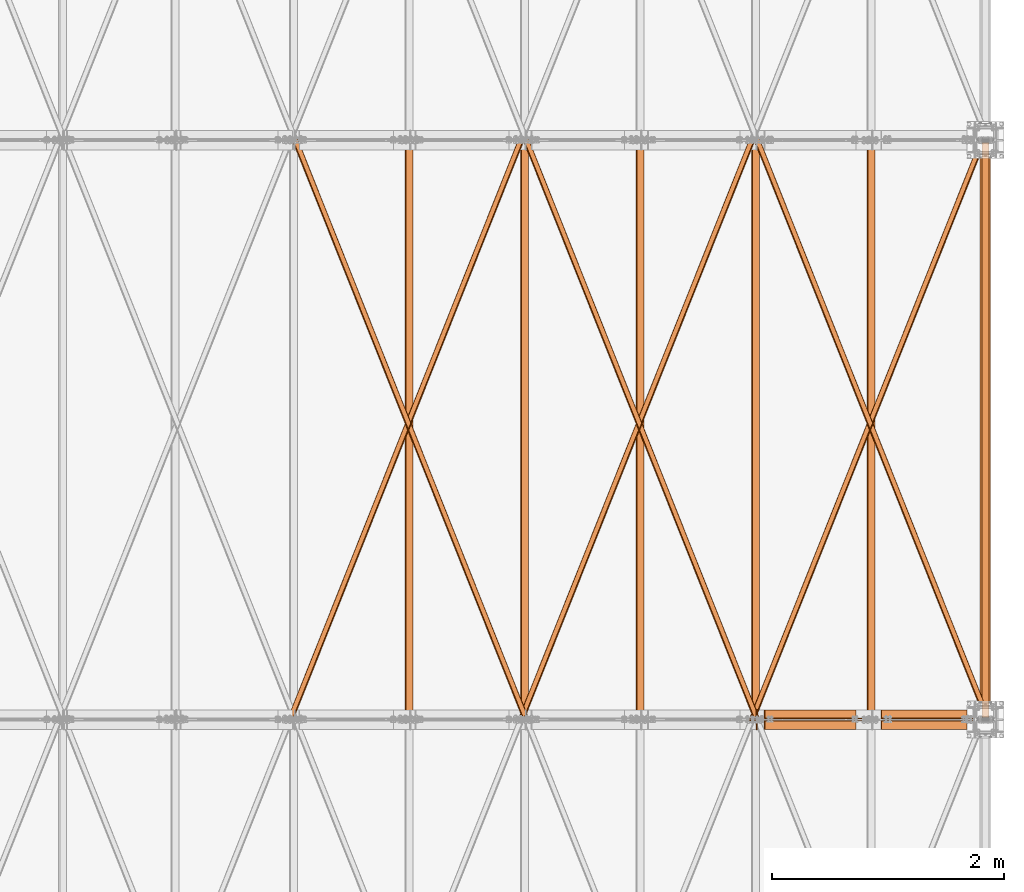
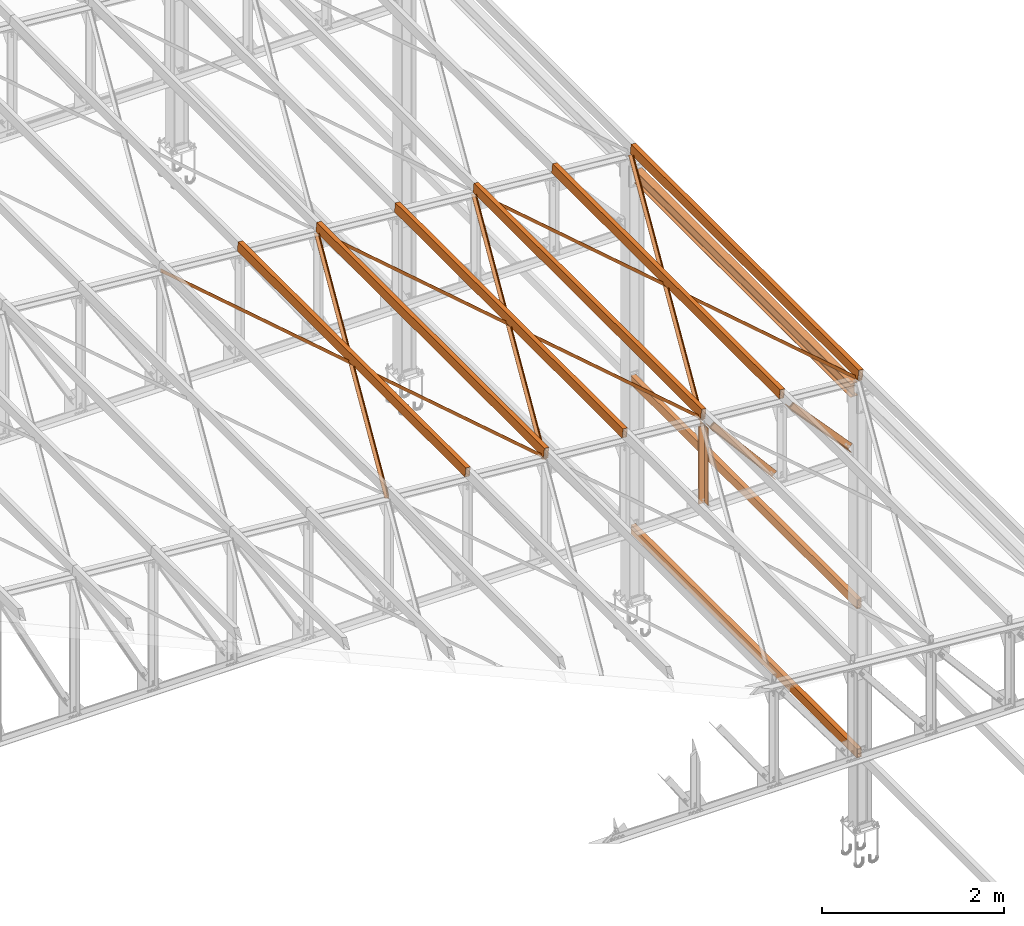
# One storey, part 236 of 251: 21 proxies.
"""IFC4 building model written with IfcOpenShell, lengths in metres."""

from ifc_helpers import new_model, si_unit, frame, frame_2d, origin_with_axes, origin_2d_with_axis, place, context, project, spatial, polyline, hollow_rectangle, i_section, l_section, outline, extrude, clip, halfspace, material, material_profile, profile_set, profile_usage, type_object, element, save


model = new_model("IFC4")

# Units and contexts
model_context = context("Model", 3, precision=1e-05, world=origin_with_axes())
ifc_project = project(units=[si_unit("LENGTHUNIT", "METRE"), si_unit("AREAUNIT", "SQUARE_METRE"), si_unit("VOLUMEUNIT", "CUBIC_METRE"), si_unit("MASSUNIT", "GRAM", prefix="KILO"), si_unit("TIMEUNIT", "SECOND"), si_unit("PLANEANGLEUNIT", "RADIAN"), si_unit("SOLIDANGLEUNIT", "STERADIAN"), si_unit("THERMODYNAMICTEMPERATUREUNIT", "DEGREE_CELSIUS")], contexts=[model_context])

# Site, building, storey
placement_1 = place(None, origin_with_axes())
site = spatial("IfcSite", under=ifc_project, at=placement_1, Name="Italia", CompositionType="ELEMENT")
building = spatial("IfcBuilding", under=site, at=placement_1, Name="Deposito", CompositionType="ELEMENT")
storey = spatial("IfcBuildingStorey", under=building, at=placement_1, Name="Storey 0", CompositionType="ELEMENT", Elevation=0.0)

# Proxies
ifc_material = material(Name="Acciaio", Category="Acciaio")
ifc_material_profile = material_profile(ifc_material, i_section(OverallWidth=0.2, OverallDepth=0.19, WebThickness=0.006, FlangeThickness=0.01, FilletRadius=0.018, at=origin_2d_with_axis()), Name="7 PILASTRO HEA200")
ifc_profile_set = profile_set([ifc_material_profile])
ifc_profile_usage_1 = profile_usage(ifc_profile_set, cardinal=1)
member_type_1 = type_object("IfcMemberType", Name="5 2L80x8", PredefinedType="MEMBER", material=ifc_profile_usage_1)
placement_2 = place(placement_1, origin_with_axes())
proxy_1_placement = place(placement_2, origin_with_axes())
element("IfcBuildingElementProxy", 1, at=proxy_1_placement, inside=storey, type_object=member_type_1, Name="100002", context=model_context, shape_type="SweptSolid", body=[
    extrude(outline(polyline([(0.0, 0.0), (-0.0799999, 0.0), (-0.0799999, 0.00799942), (-0.0079999, 0.00799942), (-0.0079999, 0.079998), (0.0, 0.079998), (0.0, 0.0)])), frame((19.0971, 4.995, 5.95199), z_axis=(0.675589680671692, 0.0, -0.737277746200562), x_axis=(0.0, 1.0, 0.0)), (0.0, 0.0, 1.0), 1.09364),
])
ifc_profile_usage_2 = profile_usage(ifc_profile_set, cardinal=1)
member_type_2 = type_object("IfcMemberType", Name="5 2L80x8", PredefinedType="MEMBER", material=ifc_profile_usage_2)
proxy_2_placement = place(placement_2, origin_with_axes())
element("IfcBuildingElementProxy", 2, at=proxy_2_placement, inside=storey, type_object=member_type_2, Name="100002", context=model_context, shape_type="SweptSolid", body=[
    extrude(outline(polyline([(0.0, 0.0), (0.0079999, 0.0), (0.0079999, -0.0719986), (0.0799999, -0.0719986), (0.0799999, -0.0799999), (0.0, -0.0799999), (0.0, 0.0)])), frame((19.1561, 5.005, 6.00604), z_axis=(0.675590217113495, 0.0, -0.737277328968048), x_axis=(0.0, 1.0, 0.0)), (0.0, 0.0, 1.0), 1.09364),
])
ifc_profile_usage_3 = profile_usage(ifc_profile_set, cardinal=1)
member_type_3 = type_object("IfcMemberType", Name="5 2L80x8", PredefinedType="MEMBER", material=ifc_profile_usage_3)
proxy_3_placement = place(placement_2, origin_with_axes())
element("IfcBuildingElementProxy", 3, at=proxy_3_placement, inside=storey, type_object=member_type_3, Name="110002", context=model_context, shape_type="SweptSolid", body=[
    extrude(outline(polyline([(0.0, 0.0), (-0.0799999, 0.0), (-0.0799999, 0.00799942), (-0.0079999, 0.00799942), (-0.0079999, 0.079998), (0.0, 0.079998), (0.0, 0.0)])), frame((18.0901, 4.995, 6.04221), z_axis=(0.646905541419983, 0.0, -0.762570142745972), x_axis=(0.0, 1.0, 0.0)), (0.0, 0.0, 1.0), 1.21365),
])
ifc_profile_usage_4 = profile_usage(ifc_profile_set, cardinal=1)
member_type_4 = type_object("IfcMemberType", Name="5 2L80x8", PredefinedType="MEMBER", material=ifc_profile_usage_4)
proxy_4_placement = place(placement_2, origin_with_axes())
element("IfcBuildingElementProxy", 4, at=proxy_4_placement, inside=storey, type_object=member_type_4, Name="110002", context=model_context, shape_type="SweptSolid", body=[
    extrude(outline(polyline([(0.0, 0.0), (0.0079999, 0.0), (0.0079999, -0.0720005), (0.0799999, -0.0720005), (0.0799999, -0.0799999), (0.0, -0.0799999), (0.0, 0.0)])), frame((18.1512, 5.005, 6.09396), z_axis=(0.646905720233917, 0.0, -0.762569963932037), x_axis=(0.0, 1.0, 0.0)), (0.0, 0.0, 1.0), 1.21365),
])
ifc_profile_usage_5 = profile_usage(ifc_profile_set, cardinal=1)
member_type_5 = type_object("IfcMemberType", Name="5 2L80x8", PredefinedType="MEMBER", material=ifc_profile_usage_5)
proxy_5_placement = place(placement_2, origin_with_axes())
element("IfcBuildingElementProxy", 5, at=proxy_5_placement, inside=storey, type_object=member_type_5, Name="30", context=model_context, shape_type="SweptSolid", body=[
    extrude(outline(polyline([(0.0, 0.0), (-0.0799999, 0.0), (-0.0799999, 0.00799942), (-0.0079999, 0.00799942), (-0.0079999, 0.0799999), (0.0, 0.0799999), (0.0, 0.0)])), frame((18.0301, 4.995, 5.06753), z_axis=(0.0, 0.0, 1.0), x_axis=(0.0, 1.0, 0.0)), (0.0, 0.0, 1.0), 1.03702),
])
ifc_profile_usage_6 = profile_usage(ifc_profile_set, cardinal=1)
member_type_6 = type_object("IfcMemberType", Name="5 2L80x8", PredefinedType="MEMBER", material=ifc_profile_usage_6)
proxy_6_placement = place(placement_2, origin_with_axes())
element("IfcBuildingElementProxy", 6, at=proxy_6_placement, inside=storey, type_object=member_type_6, Name="30", context=model_context, shape_type="SweptSolid", body=[
    extrude(outline(polyline([(0.0, 0.0), (0.0079999, 0.0), (0.0079999, -0.0720005), (0.0799999, -0.0720005), (0.0799999, -0.0799999), (0.0, -0.0799999), (0.0, 0.0)])), frame((17.9501, 5.005, 5.06753), z_axis=(0.0, 0.0, 1.0), x_axis=(0.0, 1.0, 0.0)), (0.0, 0.0, 1.0), 1.03702),
])
ifc_profile_usage_7 = profile_usage(ifc_profile_set, cardinal=8)
member_type_7 = type_object("IfcMemberType", Name="1 RHS120x60x8", PredefinedType="MEMBER", material=ifc_profile_usage_7)
proxy_7_placement = place(placement_2, origin_with_axes())
element("IfcBuildingElementProxy", 7, at=proxy_7_placement, inside=storey, type_object=member_type_7, Name="130032", context=model_context, shape_type="SweptSolid", body=[
    extrude(hollow_rectangle(XDim=0.06, YDim=0.12, WallThickness=0.008, at=frame_2d((0.0, 0.0), x_axis=(0.996194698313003, 0.087155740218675))), frame((16.0224, 5.0, 6.43086), z_axis=(0.0, 1.0, 0.0), x_axis=(-1.0, 0.0, 0.0)), (0.0, 0.0, 1.0), 5.0),
])
ifc_profile_usage_8 = profile_usage(ifc_profile_set, cardinal=8)
member_type_8 = type_object("IfcMemberType", Name="1 RHS120x60x8", PredefinedType="MEMBER", material=ifc_profile_usage_8)
proxy_8_placement = place(placement_2, origin_with_axes())
element("IfcBuildingElementProxy", 8, at=proxy_8_placement, inside=storey, type_object=member_type_8, Name="110035", context=model_context, shape_type="SweptSolid", body=[
    extrude(hollow_rectangle(XDim=0.06, YDim=0.12, WallThickness=0.008, at=frame_2d((0.0, 0.0), x_axis=(0.996194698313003, 0.087155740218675))), frame((18.0148, 5.0, 6.25655), z_axis=(0.0, 1.0, 0.0), x_axis=(-1.0, 0.0, 0.0)), (0.0, 0.0, 1.0), 5.0),
])
ifc_profile_usage_9 = profile_usage(ifc_profile_set, cardinal=8)
member_type_9 = type_object("IfcMemberType", Name="1 RHS120x60x8", PredefinedType="MEMBER", material=ifc_profile_usage_9)
proxy_9_placement = place(placement_2, origin_with_axes())
element("IfcBuildingElementProxy", 9, at=proxy_9_placement, inside=storey, type_object=member_type_9, Name="90037", context=model_context, shape_type="SweptSolid", body=[
    extrude(hollow_rectangle(XDim=0.06, YDim=0.12, WallThickness=0.008, at=frame_2d((0.0, 0.0), x_axis=(0.996194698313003, 0.087155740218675))), frame((20.0072, 5.0, 6.08224), z_axis=(0.0, 1.0, 0.0), x_axis=(-1.0, 0.0, 0.0)), (0.0, 0.0, 1.0), 5.0),
])
ifc_profile_usage_10 = profile_usage(ifc_profile_set, cardinal=8)
member_type_10 = type_object("IfcMemberType", Name="1 RHS120x60x8", PredefinedType="MEMBER", material=ifc_profile_usage_10)
proxy_10_placement = place(placement_2, origin_with_axes())
element("IfcBuildingElementProxy", 10, at=proxy_10_placement, inside=storey, type_object=member_type_10, Name="140030", context=model_context, shape_type="SweptSolid", body=[
    extrude(hollow_rectangle(XDim=0.06, YDim=0.12, WallThickness=0.008, at=frame_2d((0.0, 0.0), x_axis=(0.996194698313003, 0.087155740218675))), frame((15.0262, 5.0, 6.51801), z_axis=(0.0, 1.0, 0.0), x_axis=(-1.0, 0.0, 0.0)), (0.0, 0.0, 1.0), 5.0),
])
ifc_profile_usage_11 = profile_usage(ifc_profile_set, cardinal=8)
member_type_11 = type_object("IfcMemberType", Name="1 RHS120x60x8", PredefinedType="MEMBER", material=ifc_profile_usage_11)
proxy_11_placement = place(placement_2, origin_with_axes())
element("IfcBuildingElementProxy", 11, at=proxy_11_placement, inside=storey, type_object=member_type_11, Name="120033", context=model_context, shape_type="SweptSolid", body=[
    extrude(hollow_rectangle(XDim=0.06, YDim=0.12, WallThickness=0.008, at=frame_2d((0.0, 0.0), x_axis=(0.996194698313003, 0.087155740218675))), frame((17.0186, 5.0, 6.3437), z_axis=(0.0, 1.0, 0.0), x_axis=(-1.0, 0.0, 0.0)), (0.0, 0.0, 1.0), 5.0),
])
ifc_profile_usage_12 = profile_usage(ifc_profile_set, cardinal=8)
member_type_12 = type_object("IfcMemberType", Name="1 RHS120x60x8", PredefinedType="MEMBER", material=ifc_profile_usage_12)
proxy_12_placement = place(placement_2, origin_with_axes())
element("IfcBuildingElementProxy", 12, at=proxy_12_placement, inside=storey, type_object=member_type_12, Name="100036", context=model_context, shape_type="SweptSolid", body=[
    extrude(hollow_rectangle(XDim=0.06, YDim=0.12, WallThickness=0.008, at=frame_2d((0.0, 0.0), x_axis=(0.996194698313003, 0.087155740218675))), frame((19.011, 5.0, 6.16939), z_axis=(0.0, 1.0, 0.0), x_axis=(-1.0, 0.0, 0.0)), (0.0, 0.0, 1.0), 5.0),
])
ifc_profile_usage_13 = profile_usage(ifc_profile_set, cardinal=5)
member_type_13 = type_object("IfcMemberType", Name="1 RHS120x60x8", PredefinedType="MEMBER", material=ifc_profile_usage_13)
proxy_13_placement = place(placement_2, frame((20.0, 2.5, 1.0), z_axis=(0.0, 0.0, 1.0), x_axis=(1.0, 0.0, 0.0)))
element("IfcBuildingElementProxy", 13, at=proxy_13_placement, inside=storey, type_object=member_type_13, Name="280177", context=model_context, shape_type="Clipping", body=[
    clip(clip(extrude(hollow_rectangle(XDim=0.06, YDim=0.12, WallThickness=0.008, at=origin_2d_with_axis()), frame((0.0, 0.0, 0.0), z_axis=(0.0, 1.0, 0.0), x_axis=(-1.0, 0.0, 0.0)), (0.0, 0.0, 1.0), 10.0), halfspace(frame((-0.00519943, 2.518, 0.0112001), z_axis=(0.0, -1.0, 0.0), x_axis=(1.0, 0.0, 0.0)), False)), halfspace(frame((-0.00519943, 7.482, 0.0112001), z_axis=(0.0, -1.0, 0.0), x_axis=(1.0, 0.0, 0.0)), True)),
])
ifc_profile_usage_14 = profile_usage(ifc_profile_set, cardinal=5)
member_type_14 = type_object("IfcMemberType", Name="1 RHS120x60x8", PredefinedType="MEMBER", material=ifc_profile_usage_14)
proxy_14_placement = place(placement_2, frame((20.0, 2.5, 3.0), z_axis=(0.0, 0.0, 1.0), x_axis=(1.0, 0.0, 0.0)))
element("IfcBuildingElementProxy", 14, at=proxy_14_placement, inside=storey, type_object=member_type_14, Name="280107", context=model_context, shape_type="Clipping", body=[
    clip(clip(extrude(hollow_rectangle(XDim=0.06, YDim=0.12, WallThickness=0.008, at=origin_2d_with_axis()), frame((0.0, 0.0, 0.0), z_axis=(0.0, 1.0, 0.0), x_axis=(-1.0, 0.0, 0.0)), (0.0, 0.0, 1.0), 10.0), halfspace(frame((-0.00519943, 2.518, 0.0112), z_axis=(0.0, -1.0, 0.0), x_axis=(1.0, 0.0, 0.0)), False)), halfspace(frame((-0.00519943, 7.482, 0.0112), z_axis=(0.0, -1.0, 0.0), x_axis=(1.0, 0.0, 0.0)), True)),
])
ifc_profile_usage_15 = profile_usage(ifc_profile_set, cardinal=5)
member_type_15 = type_object("IfcMemberType", Name="9 ARCARECCI IPE180", PredefinedType="MEMBER", material=ifc_profile_usage_15)
proxy_15_placement = place(placement_2, frame((20.000001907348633, 2.5, 5.800000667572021), z_axis=(0.0, 0.0, 1.0), x_axis=(1.0, 0.0, 0.0)))
element("IfcBuildingElementProxy", 15, at=proxy_15_placement, inside=storey, type_object=member_type_15, Name="280037", context=model_context, shape_type="Clipping", body=[
    clip(clip(extrude(i_section(OverallWidth=0.091, OverallDepth=0.18, WebThickness=0.0053, FlangeThickness=0.008, FilletRadius=0.009, at=origin_2d_with_axis()), frame((0.0, 0.0, 0.0), z_axis=(0.0, 1.0, 0.0), x_axis=(-1.0, 0.0, 0.0)), (0.0, 0.0, 1.0), 10.0), halfspace(frame((0.0, 2.63, -9.53674e-07), z_axis=(0.0, -1.0, 0.0), x_axis=(1.0, 0.0, 0.0)), False)), halfspace(frame((-3.8147e-06, 7.37, 0.0), z_axis=(0.0, -1.0, 0.0), x_axis=(1.0, 0.0, 0.0)), True)),
])
ifc_profile_usage_16 = profile_usage(ifc_profile_set, cardinal=5)
member_type_16 = type_object("IfcMemberType", Name="11 CONTROVENTI COPERTURA L50x5", PredefinedType="MEMBER", material=ifc_profile_usage_16)
proxy_16_placement = place(placement_2, origin_with_axes())
element("IfcBuildingElementProxy", 16, at=proxy_16_placement, inside=storey, type_object=member_type_16, Name="190050", context=model_context, shape_type="SweptSolid", body=[
    extrude(l_section(Depth=0.05, Width=0.05, Thickness=0.005, FilletRadius=0.007, EdgeRadius=0.0035, at=origin_2d_with_axis()), frame((14.0414, 10.0068, 6.54292), z_axis=(0.369977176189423, -0.928476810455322, -0.032368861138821), x_axis=(0.928963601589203, 0.370171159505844, 0.0)), (0.0, 0.0, 1.0), 5.38516),
])
ifc_profile_usage_17 = profile_usage(ifc_profile_set, cardinal=5)
member_type_17 = type_object("IfcMemberType", Name="11 CONTROVENTI COPERTURA L50x5", PredefinedType="MEMBER", material=ifc_profile_usage_17)
proxy_17_placement = place(placement_2, origin_with_axes())
element("IfcBuildingElementProxy", 17, at=proxy_17_placement, inside=storey, type_object=member_type_17, Name="150045", context=model_context, shape_type="SweptSolid", body=[
    extrude(l_section(Depth=0.05, Width=0.05, Thickness=0.005, FilletRadius=0.007, EdgeRadius=0.0035, at=origin_2d_with_axis()), frame((15.9969, 5.00733, 6.36861), z_axis=(0.369977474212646, 0.928476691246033, -0.032368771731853), x_axis=(-0.928963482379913, 0.370171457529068, 0.0)), (0.0, 0.0, 1.0), 5.38516),
])
ifc_profile_usage_18 = profile_usage(ifc_profile_set, cardinal=5)
member_type_18 = type_object("IfcMemberType", Name="11 CONTROVENTI COPERTURA L50x5", PredefinedType="MEMBER", material=ifc_profile_usage_18)
proxy_18_placement = place(placement_2, origin_with_axes())
element("IfcBuildingElementProxy", 18, at=proxy_18_placement, inside=storey, type_object=member_type_18, Name="170048", context=model_context, shape_type="SweptSolid", body=[
    extrude(l_section(Depth=0.05, Width=0.05, Thickness=0.005, FilletRadius=0.007, EdgeRadius=0.0035, at=origin_2d_with_axis()), frame((16.0338, 10.0068, 6.36861), z_axis=(0.369977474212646, -0.928476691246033, -0.032368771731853), x_axis=(0.928963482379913, 0.370171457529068, 0.0)), (0.0, 0.0, 1.0), 5.38516),
])
ifc_profile_usage_19 = profile_usage(ifc_profile_set, cardinal=5)
member_type_19 = type_object("IfcMemberType", Name="11 CONTROVENTI COPERTURA L50x5", PredefinedType="MEMBER", material=ifc_profile_usage_19)
proxy_19_placement = place(placement_2, origin_with_axes())
element("IfcBuildingElementProxy", 19, at=proxy_19_placement, inside=storey, type_object=member_type_19, Name="170052", context=model_context, shape_type="SweptSolid", body=[
    extrude(l_section(Depth=0.05, Width=0.05, Thickness=0.005, FilletRadius=0.007, EdgeRadius=0.0035, at=origin_2d_with_axis()), frame((14.0045, 5.00733, 6.54292), z_axis=(0.369977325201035, 0.928476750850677, -0.032368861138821), x_axis=(-0.928963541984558, 0.370171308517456, 0.0)), (0.0, 0.0, 1.0), 5.38516),
])
ifc_profile_usage_20 = profile_usage(ifc_profile_set, cardinal=5)
member_type_20 = type_object("IfcMemberType", Name="11 CONTROVENTI COPERTURA L50x5", PredefinedType="MEMBER", material=ifc_profile_usage_20)
proxy_20_placement = place(placement_2, origin_with_axes())
element("IfcBuildingElementProxy", 20, at=proxy_20_placement, inside=storey, type_object=member_type_20, Name="130044", context=model_context, shape_type="SweptSolid", body=[
    extrude(l_section(Depth=0.05, Width=0.05, Thickness=0.005, FilletRadius=0.007, EdgeRadius=0.0035, at=origin_2d_with_axis()), frame((17.9893, 5.00733, 6.1943), z_axis=(0.369977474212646, 0.928476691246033, -0.03236885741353), x_axis=(-0.928963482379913, 0.370171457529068, 0.0)), (0.0, 0.0, 1.0), 5.38516),
])
ifc_profile_usage_21 = profile_usage(ifc_profile_set, cardinal=5)
member_type_21 = type_object("IfcMemberType", Name="11 CONTROVENTI COPERTURA L50x5", PredefinedType="MEMBER", material=ifc_profile_usage_21)
proxy_21_placement = place(placement_2, origin_with_axes())
element("IfcBuildingElementProxy", 21, at=proxy_21_placement, inside=storey, type_object=member_type_21, Name="150058", context=model_context, shape_type="SweptSolid", body=[
    extrude(l_section(Depth=0.05, Width=0.05, Thickness=0.005, FilletRadius=0.007, EdgeRadius=0.0035, at=origin_2d_with_axis()), frame((18.0262, 10.0068, 6.1943), z_axis=(0.369977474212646, -0.928476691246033, -0.03236885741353), x_axis=(0.928963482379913, 0.370171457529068, 0.0)), (0.0, 0.0, 1.0), 5.38516),
])

save(model, "model.ifc")
